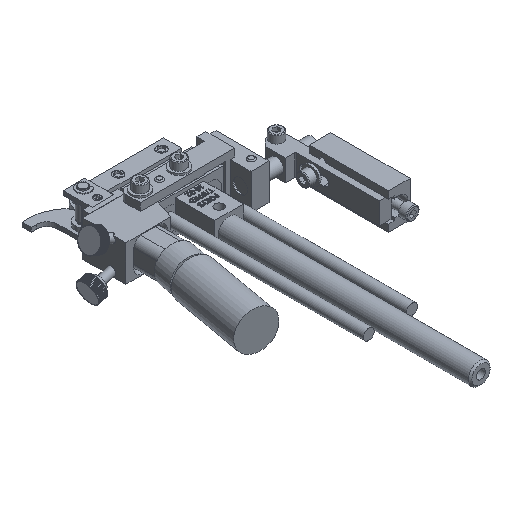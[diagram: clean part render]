
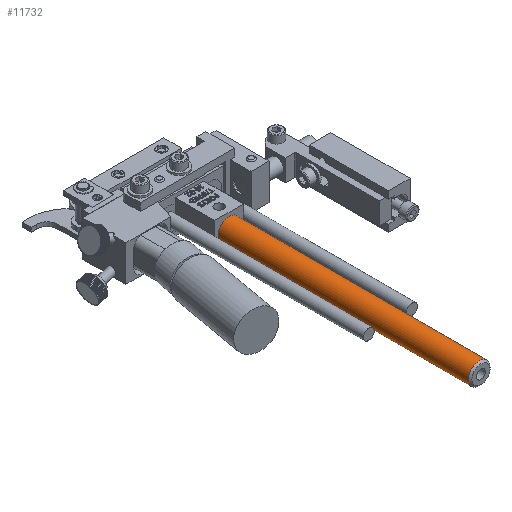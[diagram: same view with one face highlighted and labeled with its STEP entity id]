
A CAD part, isometric view. The second image highlights one B-rep face of the part: STEP entity #11732.
In plain terms, the highlighted cylindrical face has radius 4.763 mm (diameter 9.525 mm), a full revolution.
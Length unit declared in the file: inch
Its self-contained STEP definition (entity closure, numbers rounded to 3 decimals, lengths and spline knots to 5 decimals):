
#11701=CARTESIAN_POINT('',(0.44163,-5.93233,-0.0475));
#11702=VERTEX_POINT('',#11701);
#11703=CARTESIAN_POINT('',(0.44163,-5.93233,-0.235));
#11704=DIRECTION('',(0.0,-1.0,0.0));
#11705=DIRECTION('',(0.0,0.0,-1.0));
#11706=AXIS2_PLACEMENT_3D('',#11703,#11704,#11705);
#11707=CIRCLE('',#11706,0.1875);
#11708=EDGE_CURVE('',#11702,#11702,#11707,.T.);
#11713=CARTESIAN_POINT('',(0.44163,-1.58733,-0.235));
#11714=DIRECTION('',(0.,-1.0,0.));
#11715=DIRECTION('',(0.0,0.0,-1.0));
#11716=AXIS2_PLACEMENT_3D('',#11713,#11714,#11715);
#11717=CYLINDRICAL_SURFACE('',#11716,0.1875);
#11718=CARTESIAN_POINT('',(0.44163,-1.58733,-0.0475));
#11719=VERTEX_POINT('',#11718);
#11720=CARTESIAN_POINT('',(0.44163,-1.58733,-0.235));
#11721=DIRECTION('',(0.0,1.0,0.0));
#11722=DIRECTION('',(0.0,0.0,-1.0));
#11723=AXIS2_PLACEMENT_3D('',#11720,#11721,#11722);
#11724=CIRCLE('',#11723,0.1875);
#11725=EDGE_CURVE('',#11719,#11719,#11724,.T.);
#11726=ORIENTED_EDGE('',*,*,#11725,.F.);
#11727=EDGE_LOOP('',(#11726));
#11728=FACE_OUTER_BOUND('',#11727,.T.);
#11729=ORIENTED_EDGE('',*,*,#11708,.F.);
#11730=EDGE_LOOP('',(#11729));
#11731=FACE_BOUND('',#11730,.T.);
#11732=ADVANCED_FACE('',(#11728,#11731),#11717,.T.);
